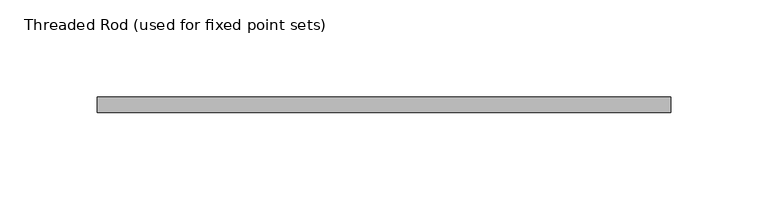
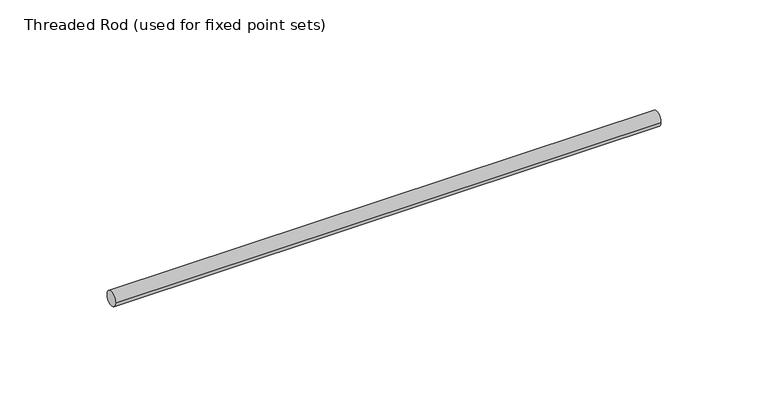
"""IFC4 building model written with IfcOpenShell, lengths in millimetres: valve geometry, Superfix Threaded Rod (used for fixed point sets) : Threaded Rod (used for fixed point sets)."""

import ifcopenshell
import ifcopenshell.guid

model = None  # the IFC model being written
_history = None  # IfcOwnerHistory: only IFC2X3 demands one
_inside = {}  # id of a spatial element -> (the spatial element, [elements in it])
_under = {}  # id of a project, library or spatial element -> (it, [spatial elements below it])
_declared = {}  # id of a project -> (the project, [libraries it declares])
_typed = {}  # id of a type object -> (the type object, [elements of that type])
_made_of = {}  # id of a material, layer set ... -> (it, [elements and type objects made of it])


def new_model(schema):
    """Start an empty IFC model of exactly this schema.

    Asked for "IFC4X3", IfcOpenShell would pick the latest addendum, in which some entities
    have other attributes; the version numbers below select the first issue.
    IFC2X3 requires an IfcOwnerHistory on every rooted entity: one is made here for all.
    """
    global model, _history
    if schema == "IFC4X3":
        model = ifcopenshell.file(schema_version=(4, 3, 0, 0))
    else:
        model = ifcopenshell.file(schema=schema)
    _inside.clear()
    _under.clear()
    _declared.clear()
    _typed.clear()
    _made_of.clear()
    _history = None
    if model.schema == "IFC2X3":
        org = make("IfcOrganization", Name="unknown")
        user = make(
            "IfcPersonAndOrganization",
            ThePerson=make("IfcPerson", FamilyName="unknown"),
            TheOrganization=org,
        )
        app = make(
            "IfcApplication",
            ApplicationDeveloper=org,
            Version="unknown",
            ApplicationFullName="unknown",
            ApplicationIdentifier="unknown",
        )
        _history = make(
            "IfcOwnerHistory",
            OwningUser=user,
            OwningApplication=app,
            ChangeAction="ADDED",
            CreationDate=0,
        )
    return model


def make(cls, **values):
    """One entity of the class cls with the attributes given. An attribute that is None is left unset."""
    return model.create_entity(
        cls, **{name: value for name, value in values.items() if value is not None}
    )


def rooted(cls, **values):
    """An entity with a GlobalId (a new one), such as an element, a storey or a relation."""
    return make(cls, GlobalId=ifcopenshell.guid.new(), OwnerHistory=_history, **values)


def si_unit(unit_type, name, prefix=None):
    """IfcSIUnit, for example si_unit("LENGTHUNIT", "METRE", prefix="MILLI")."""
    return make("IfcSIUnit", UnitType=unit_type, Prefix=prefix, Name=name)


def assignment(units):
    """IfcUnitAssignment: the units of a project."""
    return None if units is None else make("IfcUnitAssignment", Units=units)


def point(xyz):
    """IfcCartesianPoint."""
    return None if xyz is None else make("IfcCartesianPoint", Coordinates=xyz)


def direction(xyz):
    """IfcDirection."""
    return None if xyz is None else make("IfcDirection", DirectionRatios=xyz)


def frame(location, z_axis=None, x_axis=None):
    """IfcAxis2Placement3D, a coordinate frame: its origin and axes. An axis left out is left unset."""
    return make(
        "IfcAxis2Placement3D",
        Location=point(location),
        Axis=direction(z_axis),
        RefDirection=direction(x_axis),
    )


def frame_2d(location, x_axis=None):
    """IfcAxis2Placement2D, a coordinate frame in the plane: its origin and x axis."""
    return make(
        "IfcAxis2Placement2D", Location=point(location), RefDirection=direction(x_axis)
    )


def origin():
    """The frame at (0, 0, 0) with its axes left unset."""
    return frame((0.0, 0.0, 0.0))


def origin_2d():
    """The frame at (0, 0) in the plane with its x axis left unset."""
    return frame_2d((0.0, 0.0))


def place(relative_to, where):
    """IfcLocalPlacement: puts the frame where relative to a parent placement (None: the world)."""
    return make(
        "IfcLocalPlacement", PlacementRelTo=relative_to, RelativePlacement=where
    )


def context(
    kind, dimensions, precision=None, world=None, true_north=None, identifier=None
):
    """IfcGeometricRepresentationContext, for example the 3D "Model" context."""
    return make(
        "IfcGeometricRepresentationContext",
        ContextIdentifier=identifier,
        ContextType=kind,
        CoordinateSpaceDimension=dimensions,
        Precision=precision,
        WorldCoordinateSystem=world,
        TrueNorth=true_north,
    )


def project(units=None, contexts=None):
    """IfcProject with its units and contexts."""
    return rooted(
        "IfcProject",
        Name="project",
        RepresentationContexts=contexts,
        UnitsInContext=assignment(units),
    )


def spatial(cls, under=None, at=None, **own):
    """A site, building, storey or space (cls), placed at a placement, below another one or the project."""
    s = rooted(cls, ObjectPlacement=at, **own)
    if under is not None:
        _under.setdefault(under.id(), (under, []))[1].append(s)
    return s


def circle_curve(where, radius):
    """IfcCircle in the frame where."""
    return make("IfcCircle", Position=where, Radius=radius)


def trimmed(basis, trim1, trim2, sense, master):
    """IfcTrimmedCurve: the piece of a basis curve between two trims."""
    return make(
        "IfcTrimmedCurve",
        BasisCurve=basis,
        Trim1=trim1,
        Trim2=trim2,
        SenseAgreement=sense,
        MasterRepresentation=master,
    )


def segment(curve, same_sense, transition):
    """IfcCompositeCurveSegment."""
    return make(
        "IfcCompositeCurveSegment",
        Transition=transition,
        SameSense=same_sense,
        ParentCurve=curve,
    )


def composite_curve(segments, self_intersect=None):
    """IfcCompositeCurve: segments joined end to end."""
    return make("IfcCompositeCurve", Segments=segments, SelfIntersect=self_intersect)


def outline(outer, holes=None, kind="AREA"):
    """IfcArbitraryClosedProfileDef: a profile drawn as a closed curve; with holes, ...WithVoids."""
    if holes is None:
        return make("IfcArbitraryClosedProfileDef", ProfileType=kind, OuterCurve=outer)
    return make(
        "IfcArbitraryProfileDefWithVoids",
        ProfileType=kind,
        OuterCurve=outer,
        InnerCurves=holes,
    )


def extrude(swept, where, along, depth):
    """IfcExtrudedAreaSolid: the profile swept, set in the frame where, extruded along a direction by depth."""
    return make(
        "IfcExtrudedAreaSolid",
        SweptArea=swept,
        Position=where,
        ExtrudedDirection=direction(along),
        Depth=depth,
    )


def shape(context_of_items, identifier, shape_type, items):
    """IfcShapeRepresentation: the items that make up one representation, for example the "Body"."""
    return make(
        "IfcShapeRepresentation",
        ContextOfItems=context_of_items,
        RepresentationIdentifier=identifier,
        RepresentationType=shape_type,
        Items=items,
    )


def source(mapping_origin, context_of_items, identifier, shape_type, items):
    """IfcRepresentationMap: a shape defined once, which mapped items show again and again."""
    return make(
        "IfcRepresentationMap",
        MappingOrigin=mapping_origin,
        MappedRepresentation=shape(context_of_items, identifier, shape_type, items),
    )


def transform(
    local_origin,
    x_axis=None,
    y_axis=None,
    z_axis=None,
    scale=None,
    scale2=None,
    scale3=None,
    uniform=True,
):
    """IfcCartesianTransformationOperator3D, or its non-uniform kind. x_axis, y_axis, z_axis: its Axis1, 2, 3."""
    if uniform:
        return make(
            "IfcCartesianTransformationOperator3D",
            Axis1=direction(x_axis),
            Axis2=direction(y_axis),
            LocalOrigin=point(local_origin),
            Scale=scale,
            Axis3=direction(z_axis),
        )
    return make(
        "IfcCartesianTransformationOperator3DnonUniform",
        Axis1=direction(x_axis),
        Axis2=direction(y_axis),
        LocalOrigin=point(local_origin),
        Scale=scale,
        Axis3=direction(z_axis),
        Scale2=scale2,
        Scale3=scale3,
    )


def mapped(mapping_source, mapping_target):
    """IfcMappedItem: shows the shape of a source again, moved by a transform."""
    return make(
        "IfcMappedItem", MappingSource=mapping_source, MappingTarget=mapping_target
    )


def made_of(thing, what):
    """Note that an element or type object is made of a material, layer set ...; save() writes the relation."""
    if what is not None:
        _made_of.setdefault(what.id(), (what, []))[1].append(thing)
    return thing


def element(
    cls,
    number,
    at=None,
    inside=None,
    cuts=None,
    type_object=None,
    material=None,
    context=None,
    identifier="Body",
    shape_type=None,
    held_by="IfcProductDefinitionShape",
    body=None,
    shapes=None,
    **own,
):
    """One element of the class cls, such as IfcWall. Its Tag is "e" and its number.

    at: its placement. inside: the storey or other place that contains it. cuts: it is an
    opening in that element (IfcRelVoidsElement). A single representation is given by context,
    identifier, shape_type and body (its items); several are given by shapes. held_by: the class
    of the entity that holds the representations. save() writes the other relations.
    """
    e = rooted(cls, Tag="e%d" % number, ObjectPlacement=at, **own)
    if body is not None:
        shapes = [shape(context, identifier, shape_type, body)]
    if shapes is not None:
        e.Representation = make(held_by, Representations=shapes)
    if inside is not None:
        _inside.setdefault(inside.id(), (inside, []))[1].append(e)
    if cuts is not None:
        rooted(
            "IfcRelVoidsElement", RelatingBuildingElement=cuts, RelatedOpeningElement=e
        )
    if type_object is not None:
        _typed.setdefault(type_object.id(), (type_object, []))[1].append(e)
    return made_of(e, material)


def aggregate(whole, parts):
    """IfcRelAggregates: a whole, such as a stair, and the parts it consists of."""
    return rooted("IfcRelAggregates", RelatingObject=whole, RelatedObjects=parts)


def save(model, path):
    """Write the relations noted so far, then the file.

    IfcRelAggregates (storeys below a building ...), IfcRelContainedInSpatialStructure (elements
    in a storey), IfcRelDefinesByType, IfcRelAssociatesMaterial and IfcRelDeclares: one each for
    every whole, place, type object, material and project.
    """
    for whole, parts in _under.values():
        aggregate(whole, parts)
    for where, things in _inside.values():
        rooted(
            "IfcRelContainedInSpatialStructure",
            RelatedElements=things,
            RelatingStructure=where,
        )
    for kind, things in _typed.values():
        rooted("IfcRelDefinesByType", RelatedObjects=things, RelatingType=kind)
    for what, things in _made_of.values():
        rooted("IfcRelAssociatesMaterial", RelatedObjects=things, RelatingMaterial=what)
    for by, libraries in _declared.values():
        rooted("IfcRelDeclares", RelatingContext=by, RelatedDefinitions=libraries)
    model.write(path)


def threaded_rod_used_for_fixed_point_sets_86a65fc8(model_context):
    return source(origin(), model_context, "Body", "SweptSolid", [
        extrude(outline(composite_curve([segment(trimmed(circle_curve(origin_2d(), 4.0), [point((-4.0, 0.0))], [point((4.0, 0.0))], False, "CARTESIAN"), True, "CONTINUOUS"), segment(trimmed(circle_curve(origin_2d(), 4.0), [point((4.0, 0.0))], [point((-4.0, 0.0))], False, "CARTESIAN"), True, "CONTINUOUS")], self_intersect=False)), frame((-20.0, 0.0, 0.0), z_axis=(1.0, 0.0, 0.0), x_axis=(0.0, 1.0, 0.0)), (0.0, 0.0, 1.0), 294.2),
    ])


if __name__ == "__main__":
    model = new_model("IFC4")
    model_context = context("Model", 3, world=origin())
    ifc_project = project(units=[si_unit("LENGTHUNIT", "METRE", prefix="MILLI")], contexts=[model_context])
    site = spatial("IfcSite", under=ifc_project)
    building = spatial("IfcBuilding", under=site)
    placement = place(None, origin())
    threaded_rod_used_for_fixed_point_sets_shape = threaded_rod_used_for_fixed_point_sets_86a65fc8(model_context)
    element("IfcValve", 1, ObjectType="Superfix Threaded Rod (used for fixed point sets) : Threaded Rod (used for fixed point sets)", at=placement, inside=building, context=model_context, shape_type="MappedRepresentation", body=[
        mapped(threaded_rod_used_for_fixed_point_sets_shape, transform((0.0, 0.0, 0.0), x_axis=(1.0, 0.0, 0.0), y_axis=(0.0, 1.0, 0.0), z_axis=(0.0, 0.0, 1.0))),
    ])
    save(model, "model.ifc")
